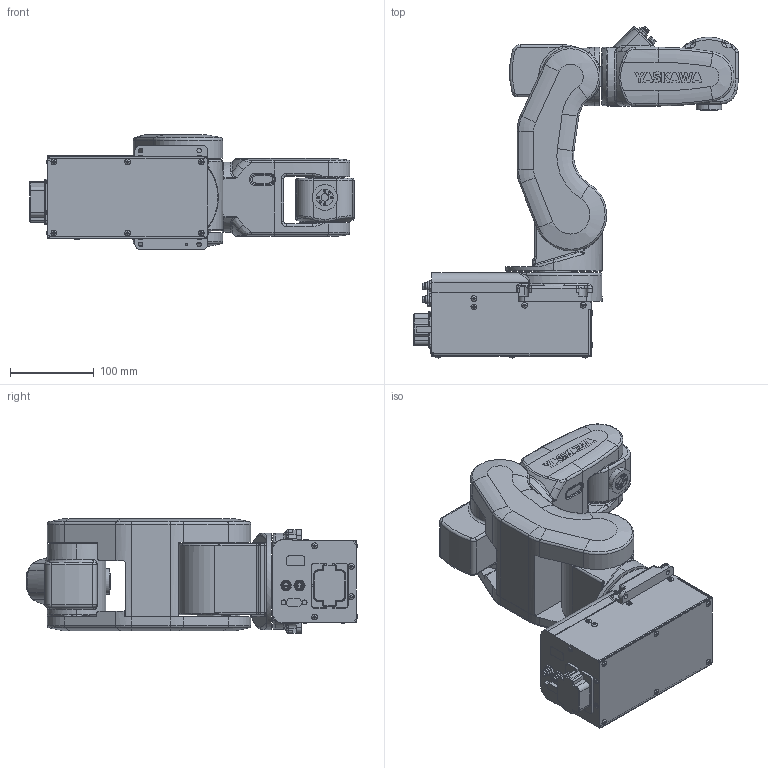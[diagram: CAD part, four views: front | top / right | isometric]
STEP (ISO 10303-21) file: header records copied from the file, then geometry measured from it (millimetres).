
FILE_DESCRIPTION((''),'2;1');
FILE_NAME('000_ARM_BEND_29_HP4_LIGHT_ASM','2017-09-26T',('HID'),('YASKAWA ELECTRIC CORPORATION'),'PRO/ENGINEER BY PARAMETRIC TECHNOLOGY CORPORATION, 2014200','PRO/ENGINEER BY PARAMETRIC TECHNOLOGY CORPORATION, 2014200','');
FILE_SCHEMA(('CONFIG_CONTROL_DESIGN'));
Products named in the file (8): BASE_AXIS; S_AXIS; L_AXIS; U_AXIS; R_AXIS; B_AXIS; T_AXIS; 000_ARM_BEND_29_HP4_LIGHT_ASM
Assembly tree (7 placements, depth 2):
  000_ARM_BEND_29_HP4_LIGHT_ASM
    BASE_AXIS
    S_AXIS
    L_AXIS
    U_AXIS
    R_AXIS
    B_AXIS
    T_AXIS
Bounding box: 387.15 x 396.26 x 137 mm (x, y, z)
Volume: 5227992.2 mm3; surface area: 390854.9 mm2
Topology: 7 solids, 7 shells, 1845 faces, 4652 edges, 2893 vertices
Faces by surface type: plane 727, cylinder 490, bspline 199, torus 149, extrusion 144, sphere 76, cone 60
Entity records: 74269 total; most frequent: CARTESIAN_POINT 31148, ORIENTED_EDGE 9280, DIRECTION 8590, EDGE_CURVE 4640, AXIS2_PLACEMENT_3D 3194, VERTEX_POINT 2894, VECTOR 2202, LINE 2058
